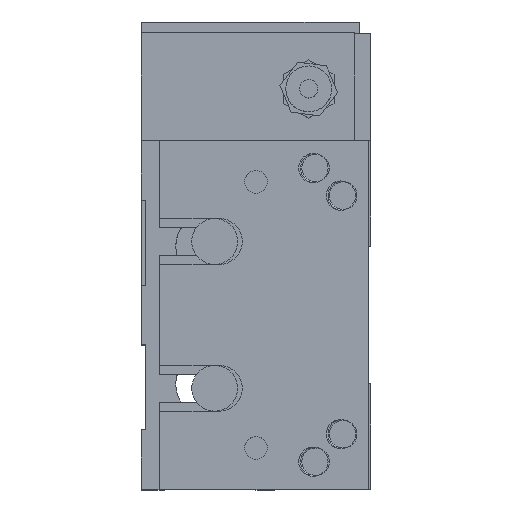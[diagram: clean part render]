
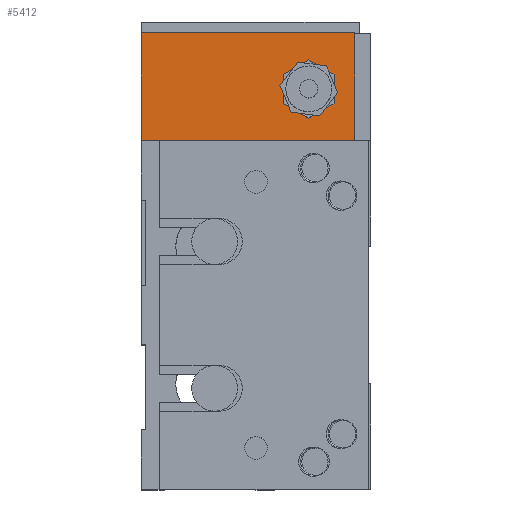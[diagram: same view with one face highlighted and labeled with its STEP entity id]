
A CAD part, top view. The second image highlights one B-rep face of the part: STEP entity #5412.
In plain terms, the highlighted planar face has unit normal (0, 0, 1).
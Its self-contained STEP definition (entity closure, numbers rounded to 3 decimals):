
#424 = VERTEX_POINT ( 'NONE', #4978 ) ;
#4978 = CARTESIAN_POINT ( 'NONE',  ( 24.5, 46.5, 13. ) ) ;
#5264 = VERTEX_POINT ( 'NONE', #28706 ) ;
#5276 = EDGE_CURVE ( 'NONE', #5264, #5365, #28709, .T. ) ;
#5340 = VERTEX_POINT ( 'NONE', #28838 ) ;
#5344 = EDGE_CURVE ( 'NONE', #5345, #5340, #28547, .T. ) ;
#5345 = VERTEX_POINT ( 'NONE', #28898 ) ;
#5346 = VERTEX_POINT ( 'NONE', #28896 ) ;
#5355 = EDGE_CURVE ( 'NONE', #5340, #5346, #28878, .T. ) ;
#5365 = VERTEX_POINT ( 'NONE', #28912 ) ;
#5382 = ORIENTED_EDGE ( 'NONE', *, *, #5355, .T. ) ;
#5386 = EDGE_LOOP ( 'NONE', ( #5395, #5408 ) ) ;
#5392 = EDGE_CURVE ( 'NONE', #424, #5345, #28930, .T. ) ;
#5395 = ORIENTED_EDGE ( 'NONE', *, *, #5398, .T. ) ;
#5396 = EDGE_CURVE ( 'NONE', #5346, #424, #28944, .T. ) ;
#5398 = EDGE_CURVE ( 'NONE', #5365, #5264, #28994, .T. ) ;
#5402 = ORIENTED_EDGE ( 'NONE', *, *, #5392, .T. ) ;
#5403 = ORIENTED_EDGE ( 'NONE', *, *, #5344, .T. ) ;
#5405 = ORIENTED_EDGE ( 'NONE', *, *, #5396, .T. ) ;
#5408 = ORIENTED_EDGE ( 'NONE', *, *, #5276, .T. ) ;
#5411 = EDGE_LOOP ( 'NONE', ( #5403, #5382, #5405, #5402 ) ) ;
#5412 = ADVANCED_FACE ( 'NONE', ( #28985, #28977 ), #28979, .F. ) ;
#27200 = DIRECTION ( 'NONE',  ( 0., -1., 0. ) ) ;
#27202 = VECTOR ( 'NONE', #27200, 1000. ) ;
#27229 = CARTESIAN_POINT ( 'NONE',  ( 0., 0., 13. ) ) ;
#28547 = LINE ( 'NONE', #27229, #27202 ) ;
#28702 = CARTESIAN_POINT ( 'NONE',  ( 12.25, 36.5, 13. ) ) ;
#28706 = CARTESIAN_POINT ( 'NONE',  ( 17.25, 36.5, 13. ) ) ;
#28709 = CIRCLE ( 'NONE', #28749, 5. ) ;
#28746 = DIRECTION ( 'NONE',  ( -1., 0., 0. ) ) ;
#28747 = DIRECTION ( 'NONE',  ( 0., 0., -1. ) ) ;
#28749 = AXIS2_PLACEMENT_3D ( 'NONE', #28702, #28747, #28746 ) ;
#28838 = CARTESIAN_POINT ( 'NONE',  ( 0., 0., 13. ) ) ;
#28865 = DIRECTION ( 'NONE',  ( 1., 0., 0. ) ) ;
#28866 = VECTOR ( 'NONE', #28865, 1000. ) ;
#28867 = CARTESIAN_POINT ( 'NONE',  ( 0., 0., 13. ) ) ;
#28878 = LINE ( 'NONE', #28867, #28866 ) ;
#28896 = CARTESIAN_POINT ( 'NONE',  ( 24.5, 0., 13. ) ) ;
#28898 = CARTESIAN_POINT ( 'NONE',  ( 0., 46.5, 13. ) ) ;
#28912 = CARTESIAN_POINT ( 'NONE',  ( 7.25, 36.5, 13. ) ) ;
#28929 = CARTESIAN_POINT ( 'NONE',  ( 0., 46.5, 13. ) ) ;
#28930 = LINE ( 'NONE', #28929, #28993 ) ;
#28943 = CARTESIAN_POINT ( 'NONE',  ( 24.5, 0., 13. ) ) ;
#28944 = LINE ( 'NONE', #28943, #28988 ) ;
#28966 = DIRECTION ( 'NONE',  ( -1., 0., 0. ) ) ;
#28968 = DIRECTION ( 'NONE',  ( 0., 0., -1. ) ) ;
#28975 = CARTESIAN_POINT ( 'NONE',  ( 0., 46.5, 13. ) ) ;
#28976 = AXIS2_PLACEMENT_3D ( 'NONE', #28975, #28968, #28966 ) ;
#28977 = FACE_OUTER_BOUND ( 'NONE', #5411, .T. ) ;
#28979 = PLANE ( 'NONE',  #28976 ) ;
#28981 = DIRECTION ( 'NONE',  ( -1., 0., 0. ) ) ;
#28982 = DIRECTION ( 'NONE',  ( 0., 0., -1. ) ) ;
#28983 = CARTESIAN_POINT ( 'NONE',  ( 12.25, 36.5, 13. ) ) ;
#28985 = FACE_BOUND ( 'NONE', #5386, .T. ) ;
#28987 = DIRECTION ( 'NONE',  ( 0., 1., 0. ) ) ;
#28988 = VECTOR ( 'NONE', #28987, 1000. ) ;
#28992 = DIRECTION ( 'NONE',  ( -1., 0., 0. ) ) ;
#28993 = VECTOR ( 'NONE', #28992, 1000. ) ;
#28994 = CIRCLE ( 'NONE', #28995, 5. ) ;
#28995 = AXIS2_PLACEMENT_3D ( 'NONE', #28983, #28982, #28981 ) ;
